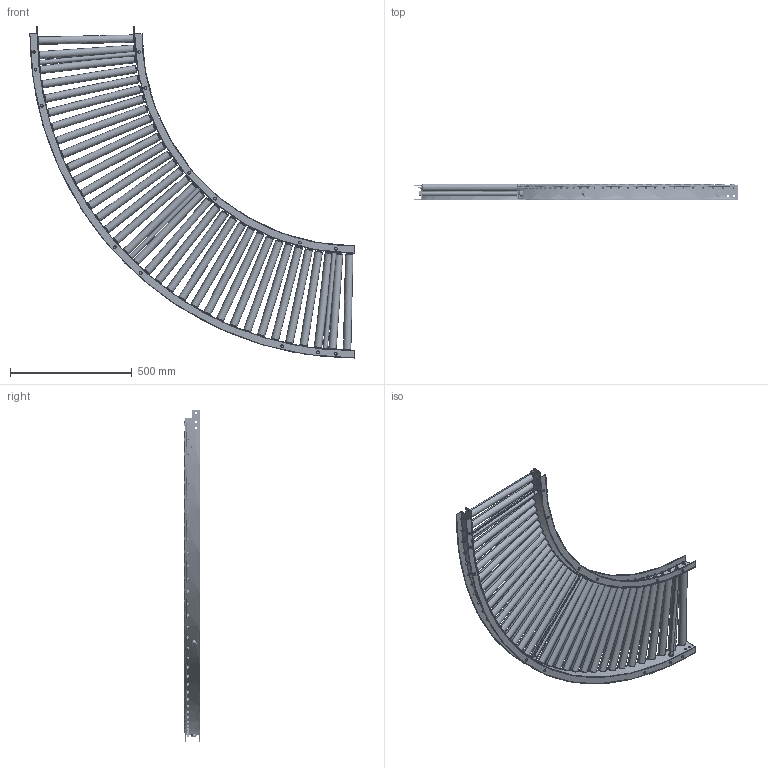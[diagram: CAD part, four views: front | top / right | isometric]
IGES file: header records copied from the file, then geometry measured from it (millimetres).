
Start section: SolidWorks IGES file using analytic representation for surfaces
Global section: file name: C:\Users\0656\Desktop\変換ツール\iges変換\SJR-3018_C.igs; native system: SolidWorks 2023; preprocessor: SolidWorks 2023; author: 0656; date: 240302.141435; units: millimetre
Bounding box: 1330 x 65.25 x 1361.57 mm (x, y, z)
Surface area: 3261164.3 mm2 (no closed solid volume)
Topology: 0 solids, 0 shells, 1838 faces, 29812 edges, 29812 vertices
Faces by surface type: bspline 1140, revolution 698
